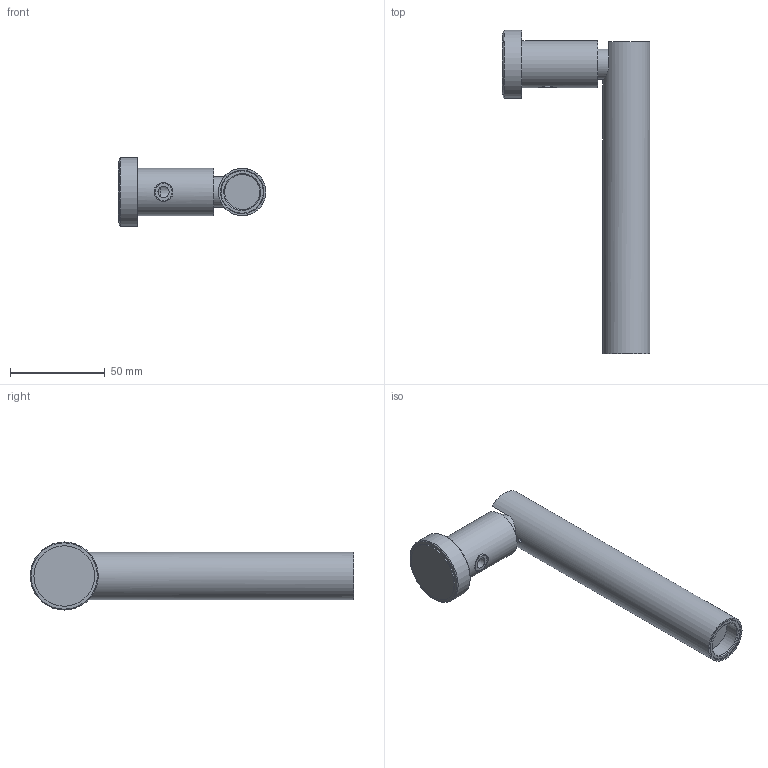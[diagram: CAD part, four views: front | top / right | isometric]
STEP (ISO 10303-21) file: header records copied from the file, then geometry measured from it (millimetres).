
FILE_DESCRIPTION(/* description */ (''),/* implementation_level */ '2;1');
FILE_NAME(/* name */ 'C:\Users\Giulia\Dropbox\MODELLI DG 2015\CAD 3D - EU\MIRA MAGNETIC\1816XX00 - MIRA MAGNETIC.stp',/* time_stamp */ '2016-07-12T11:37:53+02:00',/* author */ ('Giulia'),/* organization */ (''),/* preprocessor_version */ 'ST-DEVELOPER v16.5',/* originating_system */ 'Autodesk Inventor 2017',/* authorisation */ '');
FILE_SCHEMA (('AUTOMOTIVE_DESIGN { 1 0 10303 214 3 1 1 }'));
Length unit declared in the file: centimetre
Products named in the file (1): 1816XX00 - MIRA MAGNETIC
Bounding box: 78.1 x 171.05 x 36 mm (x, y, z)
Volume: 99666.4 mm3; surface area: 31226.7 mm2
Topology: 1 solids, 4 shells, 99 faces, 226 edges, 146 vertices
Faces by surface type: plane 41, cylinder 40, cone 14, sphere 3, torus 1
Full cylindrical faces by diameter (mm): 2.459 x2, 3.242 x1, 4 x1, 4.5 x1, 5.9 x2, 7.53 x1, 8.917 x1, 9 x1, 10 x1, 16 x1, 18.5 x1, 20 x1, 21 x2, 22.3 x1, 23 x1, 25 x2, 32 x1, 36 x1
Entity records: 2941 total; most frequent: CARTESIAN_POINT 766, DIRECTION 428, ORIENTED_EDGE 356, AXIS2_PLACEMENT_3D 184, EDGE_CURVE 178, EDGE_LOOP 155, VERTEX_POINT 133, FACE_OUTER_BOUND 99
